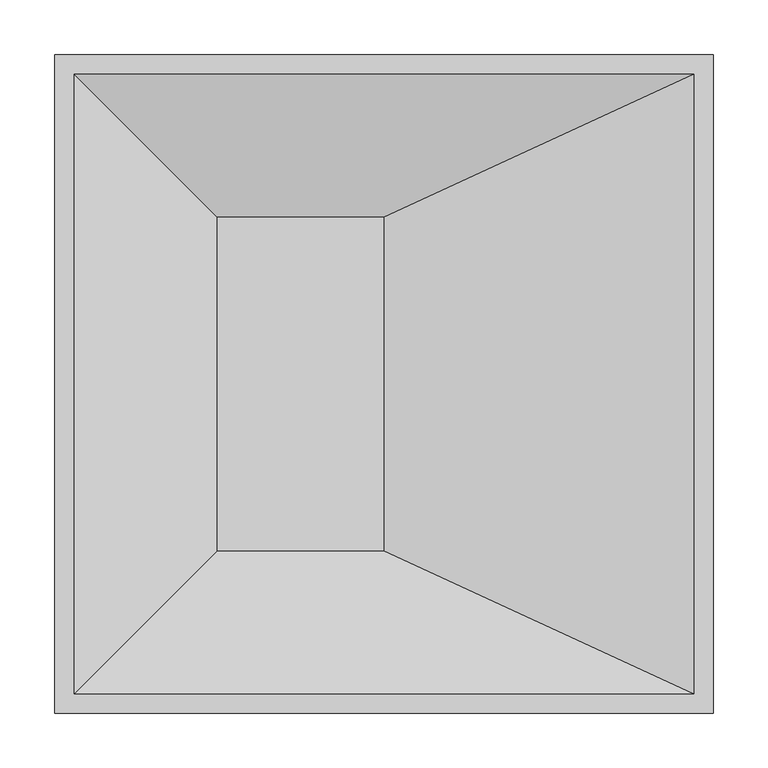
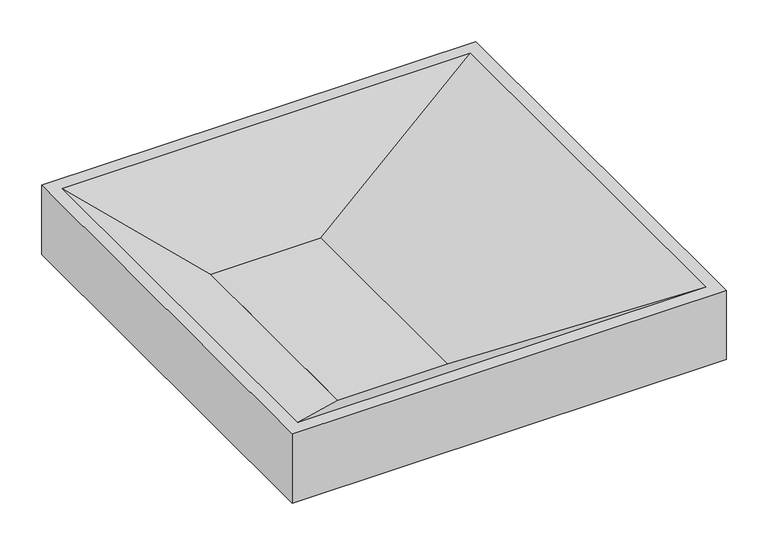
"""IFC4 building model written with IfcOpenShell, lengths in millimetres: proxy geometry, Turf_Pantheon Tile : Pantheon C2."""

from ifc_helpers import new_model, si_unit, origin, origin_with_axes, place, context, project, spatial, polyline, outline, extrude, faceted_brep, source, transform, mapped, element, save


def specialty_equipment_880822d4(model_context):
    return source(origin(), model_context, "Body", "SolidModel", [
        extrude(outline(polyline([(43.65625, -495.3), (-108.74375, -495.3), (-108.74375, -190.5), (43.65625, -190.5), (43.65625, -495.3)])), origin_with_axes(), (0.0, 0.0, 1.0), 9.0289063),
        faceted_brep([(43.65625, -495.3, 9.0289062), (326.5289063, -625.7726563, 101.6), (326.5289063, -60.0273438, 101.6), (43.65625, -190.5, 9.0289062), (-239.2164062, -60.0273438, 101.6), (-108.74375, -190.5, 9.0289062), (-239.2164062, -625.7726563, 101.6), (-108.74375, -495.3, 9.0289062), (344.4875, -42.06875, 101.6), (-257.175, -42.06875, 101.6), (-257.175, -643.73125, 101.6), (344.4875, -643.73125, 101.6), (344.4875, -42.06875, 0.0), (344.4875, -643.73125, 0.0), (-257.175, -643.73125, 0.0), (-257.175, -42.06875, 0.0), (43.65625, -495.3, 0.0), (43.65625, -190.5, 0.0), (-108.74375, -190.5, 0.0), (-108.74375, -495.3, 0.0)], [[[0, 1, 2, 3]], [[3, 2, 4, 5]], [[5, 4, 6, 7]], [[1, 0, 7, 6]], [[8, 9, 10, 11], [2, 1, 6, 4]], [[12, 13, 14, 15], [16, 17, 18, 19]], [[9, 8, 12, 15]], [[10, 9, 15, 14]], [[11, 10, 14, 13]], [[8, 11, 13, 12]], [[3, 17, 16, 0]], [[17, 3, 5, 18]], [[18, 5, 7, 19]], [[0, 16, 19, 7]]]),
    ])


if __name__ == "__main__":
    model = new_model("IFC4")
    model_context = context("Model", 3, world=origin())
    ifc_project = project(units=[si_unit("LENGTHUNIT", "METRE", prefix="MILLI")], contexts=[model_context])
    site = spatial("IfcSite", under=ifc_project)
    building = spatial("IfcBuilding", under=site)
    placement = place(None, origin())
    specialty_equipment_shape = specialty_equipment_880822d4(model_context)
    element("IfcBuildingElementProxy", 1, Name="Turf_Pantheon Tile : Pantheon C2", ObjectType="Turf_Pantheon Tile : Pantheon C2", at=placement, inside=building, context=model_context, shape_type="MappedRepresentation", body=[
        mapped(specialty_equipment_shape, transform((0.0, 0.0, 0.0), x_axis=(1.0, 0.0, 0.0), y_axis=(0.0, 1.0, 0.0), z_axis=(0.0, 0.0, 1.0))),
    ])
    save(model, "model.ifc")
